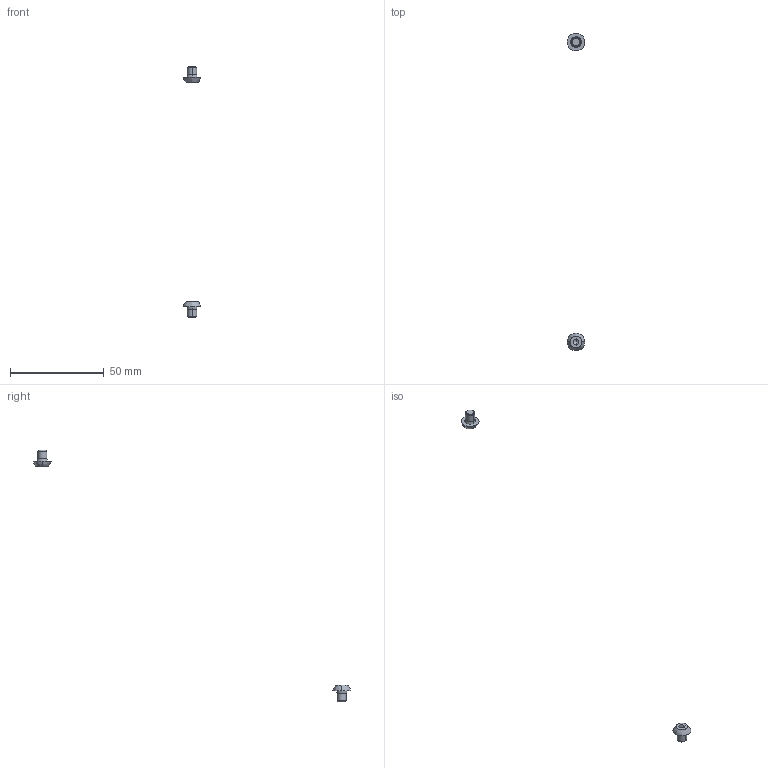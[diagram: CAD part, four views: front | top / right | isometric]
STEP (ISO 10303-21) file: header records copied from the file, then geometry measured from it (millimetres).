
FILE_DESCRIPTION(/* description */ (''),/* implementation_level */ '2;1');
FILE_NAME(/* name */ '6.y-drive#6.17#BCB5-6',/* time_stamp */ '2014-12-01T20:17:19+01:00',/* author */ (''),/* organization */ (''),/* preprocessor_version */ 'ST-DEVELOPER v14',/* originating_system */ '',/* authorisation */ '');
FILE_SCHEMA (('AUTOMOTIVE_DESIGN'));
Length unit declared in the file: millimetre
Products named in the file (2): Document; screw ISO7380-like, button, M5x06
Assembly tree (1 placements, depth 2):
  Document
    screw ISO7380-like, button, M5x06
Bounding box: 9.5 x 169.49 x 134.4 mm (x, y, z)
Volume: 515.3 mm3; surface area: 577.6 mm2
Topology: 2 solids, 2 shells, 50 faces, 116 edges, 70 vertices
Faces by surface type: plane 30, bspline 20
Entity records: 3073 total; most frequent: CARTESIAN_POINT 1536, B_SPLINE_CURVE_WITH_KNOTS 252, ORIENTED_EDGE 224, PCURVE 224, DEFINITIONAL_REPRESENTATION 224, SURFACE_CURVE 112, EDGE_CURVE 112, VERTEX_POINT 70
